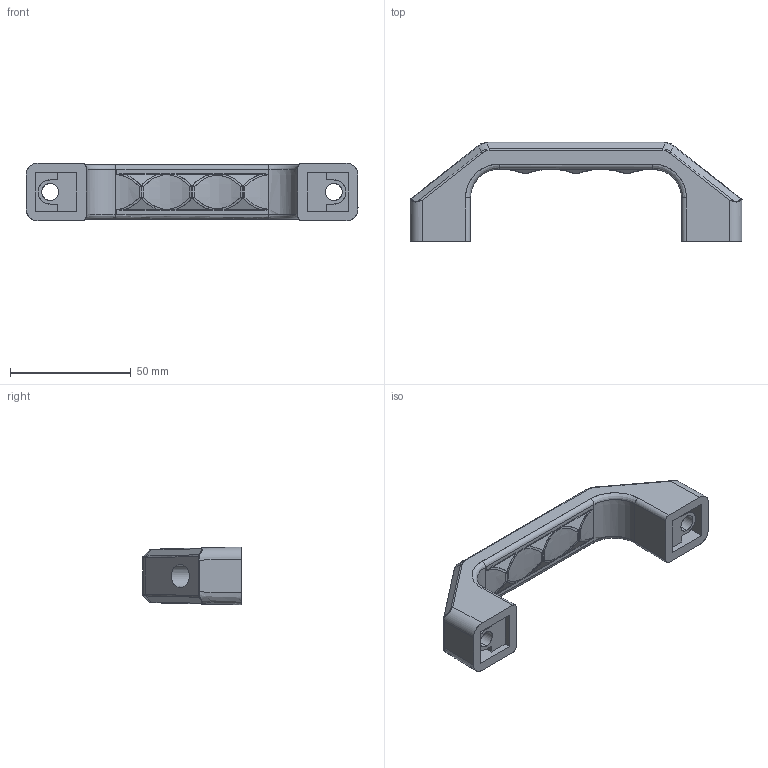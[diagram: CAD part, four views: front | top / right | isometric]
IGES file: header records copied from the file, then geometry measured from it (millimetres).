
Start section: SolidWorks IGES file using analytic representation for surfaces
Global section: file name: C:\Documents and Settings\ARGE\Desktop\yeni katalog tolgay düzenli\B kataloðu\252 SCH KAPAK KOLU MODELÝ\export\252 710 PA6.IGS; native system: SolidWorks 2006 by SolidWorks Corporation; preprocessor: SolidWorks 2006 by SolidWorks Corporation; author: ARGE2; date: 060911.140508; units: millimetre
Bounding box: 137.5 x 41 x 24 mm (x, y, z)
Surface area: 14899.1 mm2 (no closed solid volume)
Topology: 0 solids, 0 shells, 205 faces, 1774 edges, 1770 vertices
Faces by surface type: bspline 126, revolution 79
